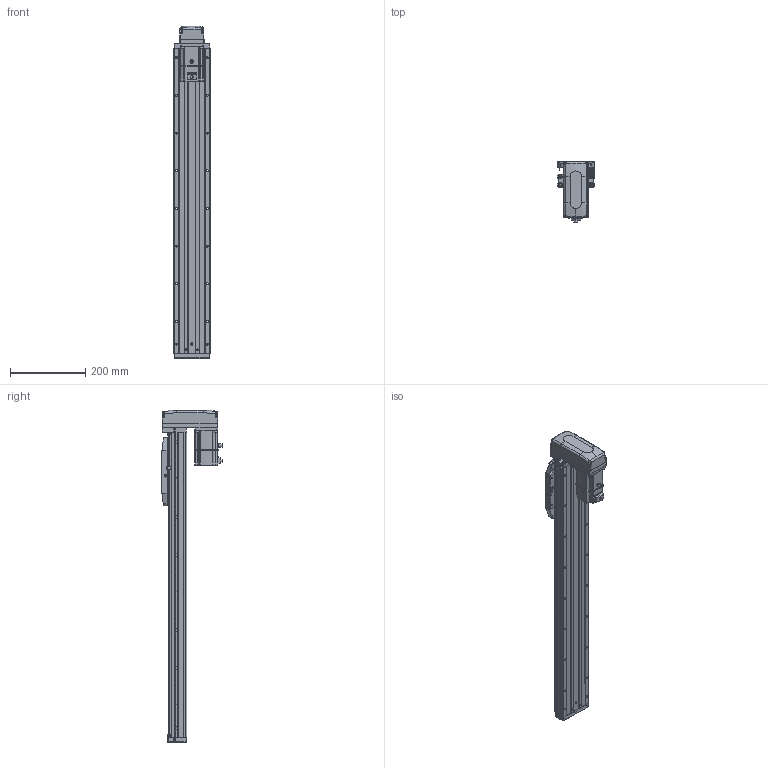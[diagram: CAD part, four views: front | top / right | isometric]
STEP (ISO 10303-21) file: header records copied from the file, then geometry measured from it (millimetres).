
FILE_DESCRIPTION (( 'STEP AP203' ), '1' );
FILE_NAME ('CTHA100-600-BM-M20-C4L.step', '2022-07-06T09:04:44', ( '微软用户' ), ( '微软中国' ), 'SwSTEP 2.0', 'SolidWorks 2020', '' );
FILE_SCHEMA (( 'CONFIG_CONTROL_DESIGN' ));
Length unit declared in the file: millimetre
Products named in the file (19): KTHA100-004; GBT 70.1-M3℅6; GBT 70.3-M3℅6; KTHA100-005; GBT70.1 M5℅16; CTHA86-015-1_CTHA86-015-2; GB¨uT 70.2-M3¡Á5_M3¡Á6; CTHA60-016; CTHA86-033; EE_SX911P_R; _X2_4E0983F1_X0_200W_1; CTHA100-600-BM-M20-C4L; CTHA60-017; CTHA100-002; CTHA60-021; CTHA100-031; KTHA100-001_810; GBT77-2000 M3×3; CTHA86-030
Assembly tree (64 placements, depth 2):
  CTHA100-600-BM-M20-C4L
    KTHA100-001_810
    KTHA100-004
    KTHA100-005
    GB¨uT 70.2-M3¡Á5_M3¡Á6  x10
    EE_SX911P_R  x3
    CTHA60-017  x3
    CTHA60-021  x2
    GBT77-2000 M3×3  x6
    GBT 70.1-M3℅6  x10
    GBT70.1 M5℅16  x14
    CTHA60-016  x2
    _X2_4E0983F1_X0_200W_1
    CTHA100-002
    CTHA100-031
    CTHA86-030  x2
    GBT 70.3-M3℅6  x4
    CTHA86-015-1_CTHA86-015-2
    CTHA86-033
Bounding box: 98.82 x 163.2 x 881 mm (x, y, z)
Volume: 3747438.7 mm3; surface area: 636017.1 mm2
Topology: 66 solids, 66 shells, 2689 faces, 6471 edges, 4012 vertices
Faces by surface type: plane 1404, cylinder 707, cone 355, torus 124, bspline 75, sphere 24
Entity records: 46638 total; most frequent: CARTESIAN_POINT 9147, DIRECTION 7204, ORIENTED_EDGE 7058, EDGE_CURVE 3529, AXIS2_PLACEMENT_3D 2441, LINE 2322, VECTOR 2322, VERTEX_POINT 2232
